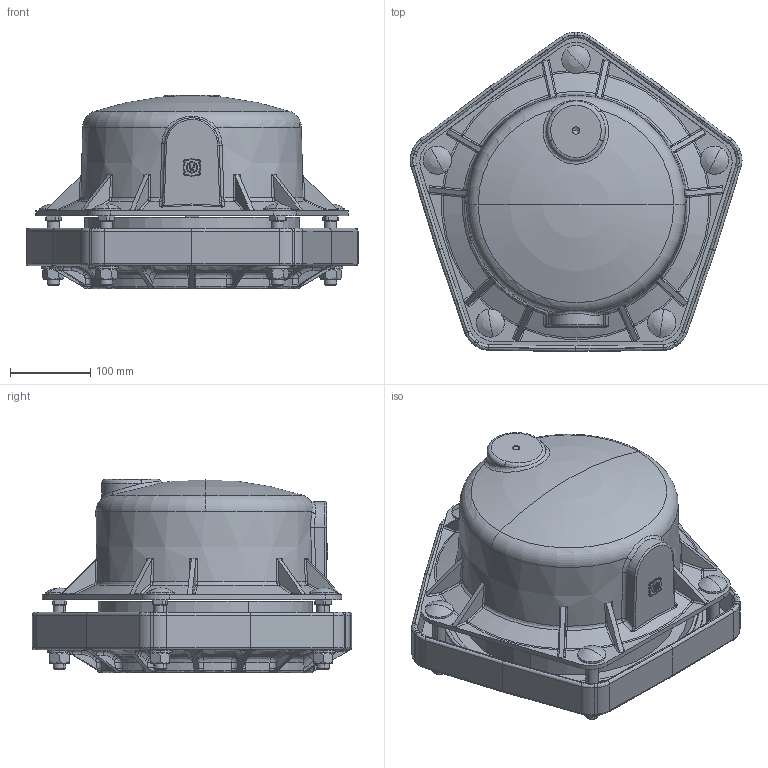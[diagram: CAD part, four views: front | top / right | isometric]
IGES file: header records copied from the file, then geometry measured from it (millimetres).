
Global section: file name: No Iges File Name specified; native system: AutoDesk Inventor R12.0; preprocessor: AutoDesk Inventor Iges Exporter R12.0; date: 20120424.093055; units: millimetre
Bounding box: 414.55 x 398.7 x 241.28 mm (x, y, z)
Volume: 3013206.7 mm3; surface area: 854733.9 mm2
Topology: 1 solids, 1 shells, 1225 faces, 3117 edges, 1914 vertices
Faces by surface type: bspline 378, plane 339, revolution 185, cylinder 148, cone 115, torus 57, sphere 3
